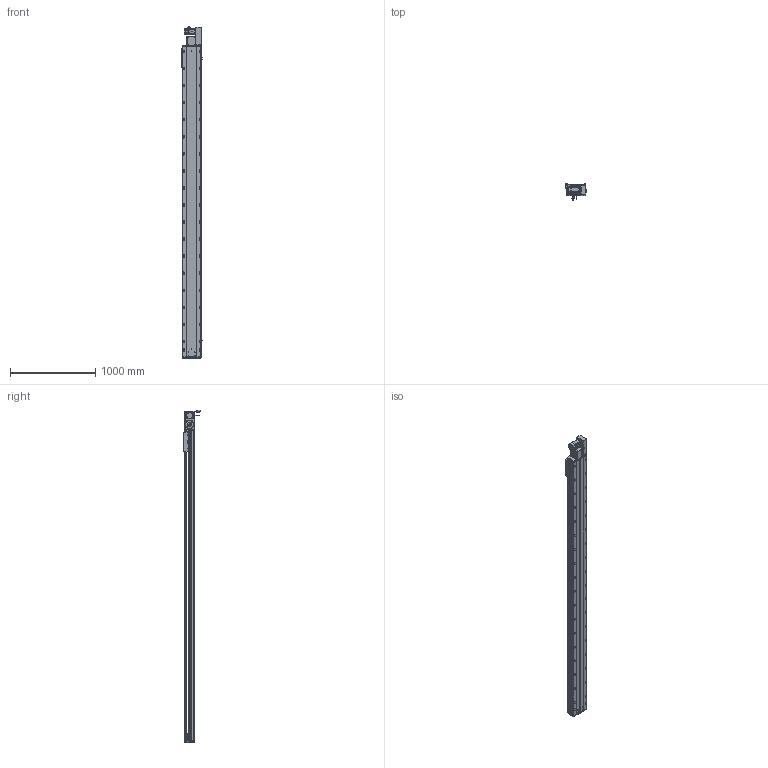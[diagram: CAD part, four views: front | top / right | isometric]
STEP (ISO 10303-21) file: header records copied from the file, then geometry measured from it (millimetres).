
FILE_DESCRIPTION (( 'STEP AP203' ), '1' );
FILE_NAME ('RY220-T-300-RK.SLDASM_3300.step', '2022-07-25T08:26:15', ( '' ), ( '' ), 'SwSTEP 2.0', 'SolidWorks 2016', '' );
FILE_SCHEMA (( 'CONFIG_CONTROL_DESIGN' ));
Length unit declared in the file: millimetre
Products named in the file (14): 110A-T-肮祭謫釱傷裔; RY220-T菁釱-300_3300; 滅袉蝶18-15; 怢湛750W_ECMA-CX0807ES; RY220翋肮祭謫釱; RY220-T-300-RK.SLDASM_3300; RY220-T-300-奻裔啣_3300; RY220-同步轮副支撑座6304×2; RY220-T-蛌殏萇儂假蚾啣(750W); RY220圉猾敕々湍臏賑輸; RY220翋肮祭謫裔啣; 覜茼ん672; RY220-俋离672覜茼んえ; RY220-T-湍謫欶(鍼踢)
Assembly tree (18 placements, depth 2):
  RY220-T-300-RK.SLDASM_3300
    RY220-T菁釱-300_3300
    RY220翋肮祭謫釱
    覜茼ん672  x3
    RY220圉猾敕々湍臏賑輸
    RY220-T-300-奻裔啣_3300
    RY220-俋离672覜茼んえ
    滅袉蝶18-15  x3
    RY220翋肮祭謫裔啣  x2
    110A-T-肮祭謫釱傷裔
    怢湛750W_ECMA-CX0807ES
    RY220-T-湍謫欶(鍼踢)
    RY220-T-蛌殏萇儂假蚾啣(750W)
    RY220-同步轮副支撑座6304×2
Bounding box: 238.7 x 198.77 x 3895.24 mm (x, y, z)
Volume: 27143151.8 mm3; surface area: 8432319.8 mm2
Topology: 19 solids, 19 shells, 3096 faces, 8571 edges, 5354 vertices
Faces by surface type: cylinder 1544, plane 1069, cone 401, bspline 56, sphere 16, torus 10
Entity records: 103347 total; most frequent: CARTESIAN_POINT 29097, ORIENTED_EDGE 15322, DIRECTION 14860, EDGE_CURVE 7661, AXIS2_PLACEMENT_3D 5386, VERTEX_POINT 4978, VECTOR 4088, LINE 4088
